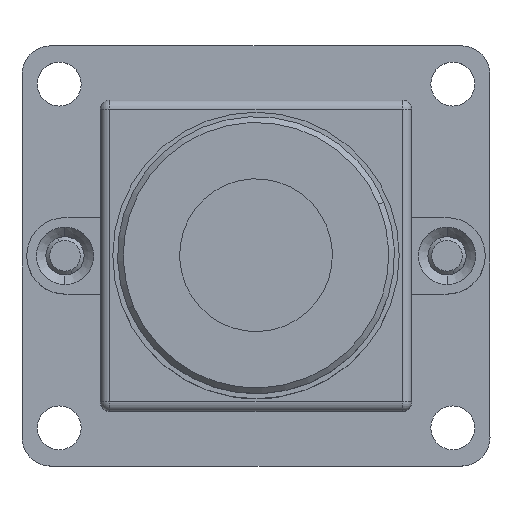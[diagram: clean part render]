
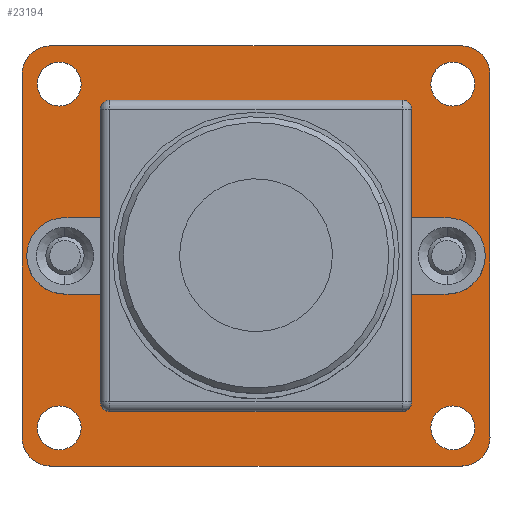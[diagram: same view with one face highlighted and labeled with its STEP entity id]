
A CAD part, top view. The second image highlights one B-rep face of the part: STEP entity #23194.
In plain terms, the highlighted planar face has unit normal (0, 0, 1).
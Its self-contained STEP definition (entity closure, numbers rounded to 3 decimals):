
#22781=CARTESIAN_POINT('',(-14.088,-11.116,
0.44));
#22782=DIRECTION('',(0.,0.,1.));
#22783=DIRECTION('',(-1.,-0.002,0.));
#22784=AXIS2_PLACEMENT_3D('',#22781,#22782,#22783);
#22786=DIRECTION('',(0.,-1.,0.));
#22787=VECTOR('',#22786,19.);
#22788=CARTESIAN_POINT('',(-15.59,7.882,
0.44));
#22789=LINE('',#22788,#22787);
#22790=CARTESIAN_POINT('',(-14.089,7.882,
0.44));
#22791=DIRECTION('',(0.,0.,1.));
#22792=DIRECTION('',(0.,1.,0.));
#22793=AXIS2_PLACEMENT_3D('',#22790,#22791,#22792);
#22795=DIRECTION('',(-1.,0.,0.));
#22796=VECTOR('',#22795,21.5);
#22797=CARTESIAN_POINT('',(7.41,9.382,
0.44));
#22798=LINE('',#22797,#22796);
#22799=CARTESIAN_POINT('',(7.411,7.883,
0.44));
#22800=DIRECTION('',(0.,0.,1.));
#22801=DIRECTION('',(1.,-0.001,0.));
#22802=AXIS2_PLACEMENT_3D('',#22799,#22800,#22801);
#22804=DIRECTION('',(0.,1.,0.));
#22805=VECTOR('',#22804,18.999);
#22806=CARTESIAN_POINT('',(8.91,-11.118,
0.44));
#22807=LINE('',#22806,#22805);
#22808=CARTESIAN_POINT('',(7.41,-11.117,
0.44));
#22809=DIRECTION('',(0.,0.,1.));
#22810=DIRECTION('',(0.,-1.,0.));
#22811=AXIS2_PLACEMENT_3D('',#22808,#22809,#22810);
#22813=DIRECTION('',(1.,0.,0.));
#22814=VECTOR('',#22813,21.5);
#22815=CARTESIAN_POINT('',(-14.09,-12.618,
0.44));
#22816=LINE('',#22815,#22814);
#22817=CARTESIAN_POINT('',(6.96,7.382,
0.44));
#22818=DIRECTION('',(0.,0.,-1.));
#22819=DIRECTION('',(-1.,0.,0.));
#22820=AXIS2_PLACEMENT_3D('',#22817,#22818,#22819);
#22822=CARTESIAN_POINT('',(6.96,7.382,
0.44));
#22823=DIRECTION('',(0.,0.,-1.));
#22824=DIRECTION('',(1.,0.,0.));
#22825=AXIS2_PLACEMENT_3D('',#22822,#22823,#22824);
#22827=CARTESIAN_POINT('',(6.66,-1.618,
0.44));
#22828=DIRECTION('',(0.,0.,1.));
#22829=DIRECTION('',(1.,0.,0.));
#22830=AXIS2_PLACEMENT_3D('',#22827,#22828,#22829);
#22832=CARTESIAN_POINT('',(6.66,-1.618,
0.44));
#22833=DIRECTION('',(0.,0.,1.));
#22834=DIRECTION('',(-1.,0.,0.));
#22835=AXIS2_PLACEMENT_3D('',#22832,#22833,#22834);
#22837=CARTESIAN_POINT('',(6.96,-10.618,
0.44));
#22838=DIRECTION('',(0.,0.,-1.));
#22839=DIRECTION('',(-1.,0.,0.));
#22840=AXIS2_PLACEMENT_3D('',#22837,#22838,#22839);
#22842=CARTESIAN_POINT('',(6.96,-10.618,
0.44));
#22843=DIRECTION('',(0.,0.,-1.));
#22844=DIRECTION('',(1.,0.,0.));
#22845=AXIS2_PLACEMENT_3D('',#22842,#22843,#22844);
#22847=CARTESIAN_POINT('',(-13.34,-1.618,
0.44));
#22848=DIRECTION('',(0.,0.,1.));
#22849=DIRECTION('',(1.,0.,0.));
#22850=AXIS2_PLACEMENT_3D('',#22847,#22848,#22849);
#22852=CARTESIAN_POINT('',(-13.34,-1.618,
0.44));
#22853=DIRECTION('',(0.,0.,1.));
#22854=DIRECTION('',(-1.,0.,0.));
#22855=AXIS2_PLACEMENT_3D('',#22852,#22853,#22854);
#22857=CARTESIAN_POINT('',(-13.64,7.382,
0.44));
#22858=DIRECTION('',(0.,0.,-1.));
#22859=DIRECTION('',(-1.,0.,0.));
#22860=AXIS2_PLACEMENT_3D('',#22857,#22858,#22859);
#22862=CARTESIAN_POINT('',(-13.64,7.382,
0.44));
#22863=DIRECTION('',(0.,0.,-1.));
#22864=DIRECTION('',(1.,0.,0.));
#22865=AXIS2_PLACEMENT_3D('',#22862,#22863,#22864);
#22867=CARTESIAN_POINT('',(-13.64,-10.618,
0.44));
#22868=DIRECTION('',(0.,0.,-1.));
#22869=DIRECTION('',(-1.,0.,0.));
#22870=AXIS2_PLACEMENT_3D('',#22867,#22868,#22869);
#22872=CARTESIAN_POINT('',(-13.64,-10.618,
0.44));
#22873=DIRECTION('',(0.,0.,-1.));
#22874=DIRECTION('',(1.,0.,0.));
#22875=AXIS2_PLACEMENT_3D('',#22872,#22873,#22874);
#23034=CARTESIAN_POINT('',(-15.59,7.882,
0.44));
#23036=VERTEX_POINT('',#23034);
#23042=CARTESIAN_POINT('',(-12.49,7.382,
0.44));
#23044=VERTEX_POINT('',#23042);
#23051=CARTESIAN_POINT('',(-14.09,9.382,
0.44));
#23053=VERTEX_POINT('',#23051);
#23055=CARTESIAN_POINT('',(8.91,7.881,
0.44));
#23056=CARTESIAN_POINT('',(7.41,9.382,
0.44));
#23057=VERTEX_POINT('',#23055);
#23058=VERTEX_POINT('',#23056);
#23060=CARTESIAN_POINT('',(8.11,-10.618,
0.44));
#23062=VERTEX_POINT('',#23060);
#23065=CARTESIAN_POINT('',(-15.59,-11.118,
0.44));
#23066=VERTEX_POINT('',#23065);
#23075=CARTESIAN_POINT('',(8.91,-11.118,
0.44));
#23076=VERTEX_POINT('',#23075);
#23077=CARTESIAN_POINT('',(-14.09,-12.618,
0.44));
#23078=VERTEX_POINT('',#23077);
#23079=CARTESIAN_POINT('',(5.56,-1.618,
0.44));
#23080=CARTESIAN_POINT('',(7.76,-1.618,
0.44));
#23081=VERTEX_POINT('',#23079);
#23082=VERTEX_POINT('',#23080);
#23085=CARTESIAN_POINT('',(-12.24,-1.618,
0.44));
#23086=CARTESIAN_POINT('',(-14.44,-1.618,
0.44));
#23087=VERTEX_POINT('',#23085);
#23088=VERTEX_POINT('',#23086);
#23089=CARTESIAN_POINT('',(-14.79,7.382,
0.44));
#23090=VERTEX_POINT('',#23089);
#23091=CARTESIAN_POINT('',(5.81,-10.618,
0.44));
#23092=VERTEX_POINT('',#23091);
#23093=CARTESIAN_POINT('',(7.41,-12.618,
0.44));
#23094=VERTEX_POINT('',#23093);
#23095=CARTESIAN_POINT('',(-14.79,-10.618,
0.44));
#23096=VERTEX_POINT('',#23095);
#23102=CARTESIAN_POINT('',(5.81,7.382,
0.44));
#23104=VERTEX_POINT('',#23102);
#23105=CARTESIAN_POINT('',(8.11,7.382,
0.44));
#23106=VERTEX_POINT('',#23105);
#23111=CARTESIAN_POINT('',(-12.49,-10.618,
0.44));
#23112=VERTEX_POINT('',#23111);
#23136=CARTESIAN_POINT('',(-3.34,-1.618,
0.44));
#23137=DIRECTION('',(0.,0.,-1.));
#23138=DIRECTION('',(0.,-1.,0.));
#23139=AXIS2_PLACEMENT_3D('',#23136,#23137,#23138);
#23140=PLANE('',#23139);
#23142=ORIENTED_EDGE('',*,*,#23141,.F.);
#23144=ORIENTED_EDGE('',*,*,#23143,.F.);
#23146=ORIENTED_EDGE('',*,*,#23145,.F.);
#23148=ORIENTED_EDGE('',*,*,#23147,.F.);
#23150=ORIENTED_EDGE('',*,*,#23149,.F.);
#23152=ORIENTED_EDGE('',*,*,#23151,.F.);
#23154=ORIENTED_EDGE('',*,*,#23153,.F.);
#23156=ORIENTED_EDGE('',*,*,#23155,.F.);
#23157=EDGE_LOOP('',(#23142,#23144,#23146,#23148,#23150,#23152,#23154,#23156));
#23158=FACE_OUTER_BOUND('',#23157,.F.);
#23160=ORIENTED_EDGE('',*,*,#23159,.F.);
#23162=ORIENTED_EDGE('',*,*,#23161,.F.);
#23163=EDGE_LOOP('',(#23160,#23162));
#23164=FACE_BOUND('',#23163,.F.);
#23166=ORIENTED_EDGE('',*,*,#23165,.T.);
#23168=ORIENTED_EDGE('',*,*,#23167,.T.);
#23169=EDGE_LOOP('',(#23166,#23168));
#23170=FACE_BOUND('',#23169,.F.);
#23172=ORIENTED_EDGE('',*,*,#23171,.F.);
#23174=ORIENTED_EDGE('',*,*,#23173,.F.);
#23175=EDGE_LOOP('',(#23172,#23174));
#23176=FACE_BOUND('',#23175,.F.);
#23178=ORIENTED_EDGE('',*,*,#23177,.T.);
#23180=ORIENTED_EDGE('',*,*,#23179,.T.);
#23181=EDGE_LOOP('',(#23178,#23180));
#23182=FACE_BOUND('',#23181,.F.);
#23184=ORIENTED_EDGE('',*,*,#23183,.F.);
#23186=ORIENTED_EDGE('',*,*,#23185,.F.);
#23187=EDGE_LOOP('',(#23184,#23186));
#23188=FACE_BOUND('',#23187,.F.);
#23189=ORIENTED_EDGE('',*,*,#23118,.F.);
#23191=ORIENTED_EDGE('',*,*,#23190,.F.);
#23192=EDGE_LOOP('',(#23189,#23191));
#23193=FACE_BOUND('',#23192,.F.);
#22785=CIRCLE('',#22784,1.502);
#22794=CIRCLE('',#22793,1.501);
#22803=CIRCLE('',#22802,1.499);
#22812=CIRCLE('',#22811,1.501);
#22821=CIRCLE('',#22820,1.15);
#22826=CIRCLE('',#22825,1.15);
#22831=CIRCLE('',#22830,1.1);
#22836=CIRCLE('',#22835,1.1);
#22841=CIRCLE('',#22840,1.15);
#22846=CIRCLE('',#22845,1.15);
#22851=CIRCLE('',#22850,1.1);
#22856=CIRCLE('',#22855,1.1);
#22861=CIRCLE('',#22860,1.15);
#22866=CIRCLE('',#22865,1.15);
#22871=CIRCLE('',#22870,1.15);
#22876=CIRCLE('',#22875,1.15);
#23118=EDGE_CURVE('',#23096,#23112,#22871,.T.);
#23141=EDGE_CURVE('',#23066,#23078,#22785,.T.);
#23143=EDGE_CURVE('',#23036,#23066,#22789,.T.);
#23145=EDGE_CURVE('',#23053,#23036,#22794,.T.);
#23147=EDGE_CURVE('',#23058,#23053,#22798,.T.);
#23149=EDGE_CURVE('',#23057,#23058,#22803,.T.);
#23151=EDGE_CURVE('',#23076,#23057,#22807,.T.);
#23153=EDGE_CURVE('',#23094,#23076,#22812,.T.);
#23155=EDGE_CURVE('',#23078,#23094,#22816,.T.);
#23159=EDGE_CURVE('',#23104,#23106,#22821,.T.);
#23161=EDGE_CURVE('',#23106,#23104,#22826,.T.);
#23165=EDGE_CURVE('',#23082,#23081,#22831,.T.);
#23167=EDGE_CURVE('',#23081,#23082,#22836,.T.);
#23171=EDGE_CURVE('',#23092,#23062,#22841,.T.);
#23173=EDGE_CURVE('',#23062,#23092,#22846,.T.);
#23177=EDGE_CURVE('',#23087,#23088,#22851,.T.);
#23179=EDGE_CURVE('',#23088,#23087,#22856,.T.);
#23183=EDGE_CURVE('',#23090,#23044,#22861,.T.);
#23185=EDGE_CURVE('',#23044,#23090,#22866,.T.);
#23190=EDGE_CURVE('',#23112,#23096,#22876,.T.);
#23194=ADVANCED_FACE('',(#23158,#23164,#23170,#23176,#23182,#23188,#23193),
#23140,.F.);
